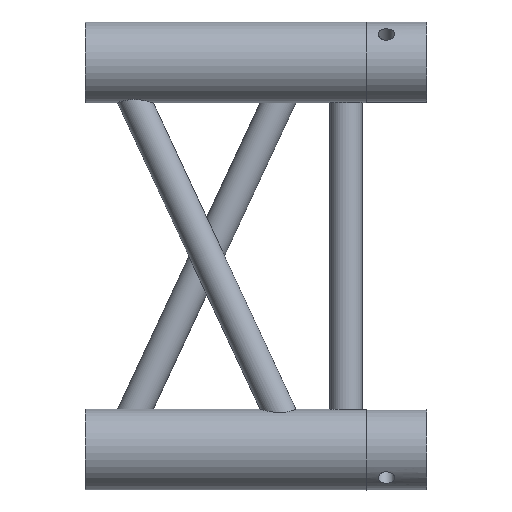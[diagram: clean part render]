
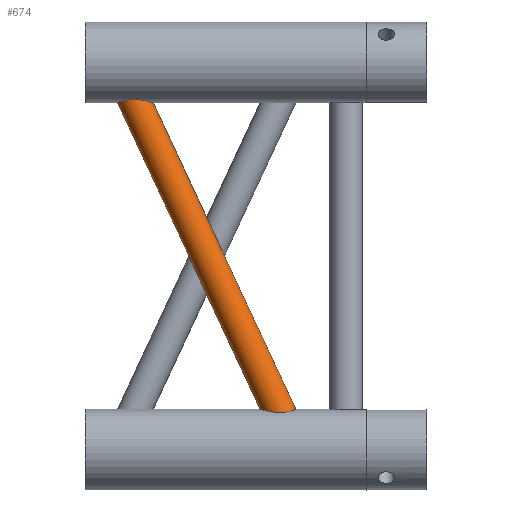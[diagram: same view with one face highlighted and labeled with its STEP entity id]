
A CAD part, front view. The second image highlights one B-rep face of the part: STEP entity #674.
In plain terms, the highlighted cylindrical face has radius 10 mm (diameter 20 mm), a full revolution.
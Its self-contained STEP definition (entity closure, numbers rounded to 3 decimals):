
#28=B_SPLINE_CURVE_WITH_KNOTS('',3,(#1403,#1404,#1405,#1406,#1407,#1408,
#1409,#1410,#1411,#1412,#1413,#1414,#1415,#1416,#1417,#1418,#1419,#1420,
#1421,#1422,#1423,#1424,#1425,#1426,#1427,#1428,#1429,#1430,#1431,#1432,
#1433,#1434,#1435,#1436,#1437,#1438,#1439,#1440),.UNSPECIFIED.,.T.,.F.,
(4,2,2,2,2,2,2,2,2,2,2,2,2,2,2,2,2,2,4),(0.,0.432,0.864,
1.267,1.469,1.671,1.873,2.074,
2.478,2.91,3.342,3.735,4.129,
4.506,4.882,5.259,5.636,6.029,
6.423),.UNSPECIFIED.);
#29=B_SPLINE_CURVE_WITH_KNOTS('',3,(#1442,#1443,#1444,#1445,#1446,#1447,
#1448,#1449,#1450,#1451,#1452,#1453,#1454,#1455,#1456,#1457,#1458,#1459,
#1460,#1461,#1462,#1463,#1464,#1465,#1466,#1467,#1468,#1469,#1470,#1471,
#1472,#1473,#1474,#1475),.UNSPECIFIED.,.T.,.F.,(4,2,2,2,2,2,2,2,2,2,2,2,
2,2,2,2,4),(0.,0.452,0.905,1.287,1.67,
2.053,2.436,2.888,3.34,3.734,
4.128,4.504,4.881,5.258,5.634,
6.028,6.421),.UNSPECIFIED.);
#65=FACE_BOUND('',#217,.T.);
#99=CYLINDRICAL_SURFACE('',#748,10.);
#141=FACE_OUTER_BOUND('',#216,.T.);
#216=EDGE_LOOP('',(#516));
#217=EDGE_LOOP('',(#517));
#336=VERTEX_POINT('',#1402);
#337=VERTEX_POINT('',#1441);
#400=EDGE_CURVE('',#336,#336,#28,.T.);
#401=EDGE_CURVE('',#337,#337,#29,.T.);
#516=ORIENTED_EDGE('',*,*,#400,.F.);
#517=ORIENTED_EDGE('',*,*,#401,.F.);
#674=ADVANCED_FACE('',(#141,#65),#99,.T.);
#748=AXIS2_PLACEMENT_3D('',#1401,#897,#898);
#897=DIRECTION('center_axis',(-0.423,0.,
0.906));
#898=DIRECTION('ref_axis',(-0.906,0.,-0.423));
#1401=CARTESIAN_POINT('Origin',(12.866,-167.925,52.248));
#1402=CARTESIAN_POINT('',(11.868,-177.925,54.388));
#1403=CARTESIAN_POINT('Ctrl Pts',(11.868,-177.925,54.388));
#1404=CARTESIAN_POINT('Ctrl Pts',(10.428,-177.925,54.388));
#1405=CARTESIAN_POINT('Ctrl Pts',(8.894,-177.659,54.509));
#1406=CARTESIAN_POINT('Ctrl Pts',(6.017,-176.638,54.914));
#1407=CARTESIAN_POINT('Ctrl Pts',(4.671,-175.884,55.193));
#1408=CARTESIAN_POINT('Ctrl Pts',(2.539,-174.166,55.699));
#1409=CARTESIAN_POINT('Ctrl Pts',(1.573,-173.094,55.967));
#1410=CARTESIAN_POINT('Ctrl Pts',(0.567,-171.259,56.26));
#1411=CARTESIAN_POINT('Ctrl Pts',(0.303,-170.61,56.34));
#1412=CARTESIAN_POINT('Ctrl Pts',(-0.05,-169.279,
56.448));
#1413=CARTESIAN_POINT('Ctrl Pts',(-0.139,-168.597,
56.475));
#1414=CARTESIAN_POINT('Ctrl Pts',(-0.139,-167.252,
56.475));
#1415=CARTESIAN_POINT('Ctrl Pts',(-0.05,-166.57,
56.448));
#1416=CARTESIAN_POINT('Ctrl Pts',(0.303,-165.239,56.34));
#1417=CARTESIAN_POINT('Ctrl Pts',(0.567,-164.59,56.26));
#1418=CARTESIAN_POINT('Ctrl Pts',(1.573,-162.755,55.967));
#1419=CARTESIAN_POINT('Ctrl Pts',(2.539,-161.683,55.699));
#1420=CARTESIAN_POINT('Ctrl Pts',(4.671,-159.965,55.193));
#1421=CARTESIAN_POINT('Ctrl Pts',(6.017,-159.211,54.914));
#1422=CARTESIAN_POINT('Ctrl Pts',(8.894,-158.19,54.509));
#1423=CARTESIAN_POINT('Ctrl Pts',(10.428,-157.925,54.388));
#1424=CARTESIAN_POINT('Ctrl Pts',(13.18,-157.925,54.388));
#1425=CARTESIAN_POINT('Ctrl Pts',(14.585,-158.151,54.492));
#1426=CARTESIAN_POINT('Ctrl Pts',(17.14,-159.157,54.894));
#1427=CARTESIAN_POINT('Ctrl Pts',(18.29,-159.938,55.185));
#1428=CARTESIAN_POINT('Ctrl Pts',(20.033,-161.746,55.718));
#1429=CARTESIAN_POINT('Ctrl Pts',(20.753,-162.869,55.991));
#1430=CARTESIAN_POINT('Ctrl Pts',(21.7,-165.33,56.372));
#1431=CARTESIAN_POINT('Ctrl Pts',(21.929,-166.669,56.475));
#1432=CARTESIAN_POINT('Ctrl Pts',(21.929,-169.18,56.475));
#1433=CARTESIAN_POINT('Ctrl Pts',(21.7,-170.519,56.372));
#1434=CARTESIAN_POINT('Ctrl Pts',(20.753,-172.981,55.991));
#1435=CARTESIAN_POINT('Ctrl Pts',(20.033,-174.103,55.718));
#1436=CARTESIAN_POINT('Ctrl Pts',(18.29,-175.912,55.185));
#1437=CARTESIAN_POINT('Ctrl Pts',(17.14,-176.693,54.894));
#1438=CARTESIAN_POINT('Ctrl Pts',(14.585,-177.698,54.492));
#1439=CARTESIAN_POINT('Ctrl Pts',(13.18,-177.925,54.388));
#1440=CARTESIAN_POINT('Ctrl Pts',(11.868,-177.925,54.388));
#1441=CARTESIAN_POINT('',(-88.271,-167.925,245.475));
#1442=CARTESIAN_POINT('Ctrl Pts',(-78.211,-177.925,247.563));
#1443=CARTESIAN_POINT('Ctrl Pts',(-76.703,-177.925,247.563));
#1444=CARTESIAN_POINT('Ctrl Pts',(-75.103,-177.634,247.43));
#1445=CARTESIAN_POINT('Ctrl Pts',(-72.116,-176.526,246.994));
#1446=CARTESIAN_POINT('Ctrl Pts',(-70.728,-175.708,246.697));
#1447=CARTESIAN_POINT('Ctrl Pts',(-68.655,-173.921,246.19));
#1448=CARTESIAN_POINT('Ctrl Pts',(-67.767,-172.877,245.942));
#1449=CARTESIAN_POINT('Ctrl Pts',(-66.538,-170.518,245.582));
#1450=CARTESIAN_POINT('Ctrl Pts',(-66.204,-169.201,245.475));
#1451=CARTESIAN_POINT('Ctrl Pts',(-66.204,-166.649,245.475));
#1452=CARTESIAN_POINT('Ctrl Pts',(-66.538,-165.331,245.582));
#1453=CARTESIAN_POINT('Ctrl Pts',(-67.767,-162.973,245.942));
#1454=CARTESIAN_POINT('Ctrl Pts',(-68.655,-161.928,246.19));
#1455=CARTESIAN_POINT('Ctrl Pts',(-70.728,-160.141,246.697));
#1456=CARTESIAN_POINT('Ctrl Pts',(-72.116,-159.323,246.994));
#1457=CARTESIAN_POINT('Ctrl Pts',(-75.103,-158.215,247.43));
#1458=CARTESIAN_POINT('Ctrl Pts',(-76.703,-157.925,247.563));
#1459=CARTESIAN_POINT('Ctrl Pts',(-79.523,-157.925,247.563));
#1460=CARTESIAN_POINT('Ctrl Pts',(-80.928,-158.151,247.459));
#1461=CARTESIAN_POINT('Ctrl Pts',(-83.483,-159.157,247.057));
#1462=CARTESIAN_POINT('Ctrl Pts',(-84.633,-159.938,246.766));
#1463=CARTESIAN_POINT('Ctrl Pts',(-86.376,-161.746,246.233));
#1464=CARTESIAN_POINT('Ctrl Pts',(-87.096,-162.869,245.96));
#1465=CARTESIAN_POINT('Ctrl Pts',(-88.043,-165.33,245.579));
#1466=CARTESIAN_POINT('Ctrl Pts',(-88.271,-166.669,245.475));
#1467=CARTESIAN_POINT('Ctrl Pts',(-88.271,-169.18,245.475));
#1468=CARTESIAN_POINT('Ctrl Pts',(-88.043,-170.519,245.579));
#1469=CARTESIAN_POINT('Ctrl Pts',(-87.096,-172.981,245.96));
#1470=CARTESIAN_POINT('Ctrl Pts',(-86.376,-174.103,246.233));
#1471=CARTESIAN_POINT('Ctrl Pts',(-84.633,-175.912,246.766));
#1472=CARTESIAN_POINT('Ctrl Pts',(-83.483,-176.693,247.057));
#1473=CARTESIAN_POINT('Ctrl Pts',(-80.928,-177.698,247.459));
#1474=CARTESIAN_POINT('Ctrl Pts',(-79.523,-177.925,247.563));
#1475=CARTESIAN_POINT('Ctrl Pts',(-78.211,-177.925,247.563));
